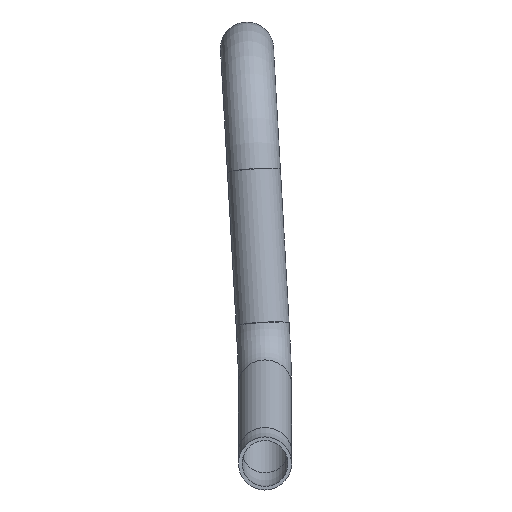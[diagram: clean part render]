
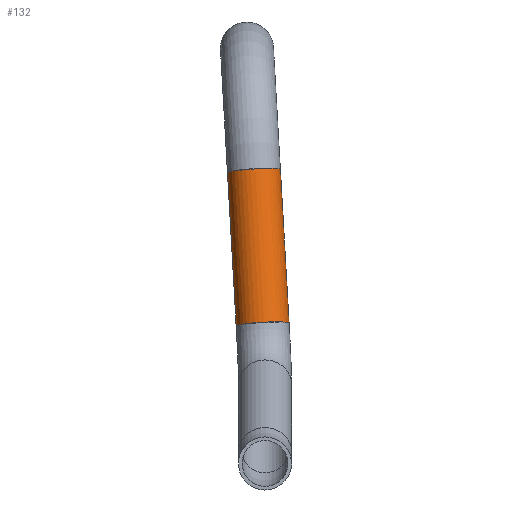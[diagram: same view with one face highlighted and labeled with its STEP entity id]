
A CAD part, left-side view. The second image highlights one B-rep face of the part: STEP entity #132.
In plain terms, the highlighted cylindrical face has radius 11 mm (diameter 22 mm), a partial arc.
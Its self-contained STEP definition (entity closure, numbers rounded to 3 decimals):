
#92=AXIS2_PLACEMENT_3D('Circle Axis2P3D',#90,#91,$) ;
#105=AXIS2_PLACEMENT_3D('Cylinder Axis2P3D',#102,#103,#104) ;
#123=AXIS2_PLACEMENT_3D('Circle Axis2P3D',#121,#122,$) ;
#80=CARTESIAN_POINT('Vertex',(-12952.315,-1009.116,447.954)) ;
#87=CARTESIAN_POINT('Vertex',(-12953.556,-987.18,446.823)) ;
#90=CARTESIAN_POINT('Axis2P3D Location',(-12952.935,-998.148,447.388)) ;
#102=CARTESIAN_POINT('Axis2P3D Location',(-12955.871,-999.954,415.569)) ;
#107=CARTESIAN_POINT('Line Origine',(-12955.25,-1010.922,416.135)) ;
#111=CARTESIAN_POINT('Vertex',(-12958.186,-1012.728,384.316)) ;
#114=CARTESIAN_POINT('Line Origine',(-12956.492,-988.986,415.004)) ;
#118=CARTESIAN_POINT('Vertex',(-12959.428,-990.793,383.185)) ;
#121=CARTESIAN_POINT('Axis2P3D Location',(-12958.807,-1001.76,383.751)) ;
#91=DIRECTION('Axis2P3D Direction',(0.092,0.056,0.994)) ;
#103=DIRECTION('Axis2P3D Direction',(-0.092,-0.056,-0.994)) ;
#104=DIRECTION('Axis2P3D XDirection',(0.056,-0.997,0.051)) ;
#108=DIRECTION('Vector Direction',(-0.092,-0.056,-0.994)) ;
#115=DIRECTION('Vector Direction',(-0.092,-0.056,-0.994)) ;
#122=DIRECTION('Axis2P3D Direction',(-0.092,-0.056,-0.994)) ;
#109=VECTOR('Line Direction',#108,1.) ;
#116=VECTOR('Line Direction',#115,1.) ;
#127=ORIENTED_EDGE('',*,*,#113,.F.) ;
#128=ORIENTED_EDGE('',*,*,#94,.T.) ;
#129=ORIENTED_EDGE('',*,*,#120,.T.) ;
#130=ORIENTED_EDGE('',*,*,#125,.F.) ;
#132=ADVANCED_FACE('( + ) PartBody',(#131),#106,.T.) ;
#93=CIRCLE('generated circle',#92,11.) ;
#124=CIRCLE('generated circle',#123,11.) ;
#106=CYLINDRICAL_SURFACE('generated cylinder',#105,11.) ;
#94=EDGE_CURVE('',#81,#88,#93,.F.) ;
#113=EDGE_CURVE('',#81,#112,#110,.T.) ;
#120=EDGE_CURVE('',#88,#119,#117,.T.) ;
#125=EDGE_CURVE('',#112,#119,#124,.T.) ;
#126=EDGE_LOOP('',(#127,#128,#129,#130)) ;
#131=FACE_OUTER_BOUND('',#126,.T.) ;
#110=LINE('Line',#107,#109) ;
#117=LINE('Line',#114,#116) ;
#81=VERTEX_POINT('',#80) ;
#88=VERTEX_POINT('',#87) ;
#112=VERTEX_POINT('',#111) ;
#119=VERTEX_POINT('',#118) ;
